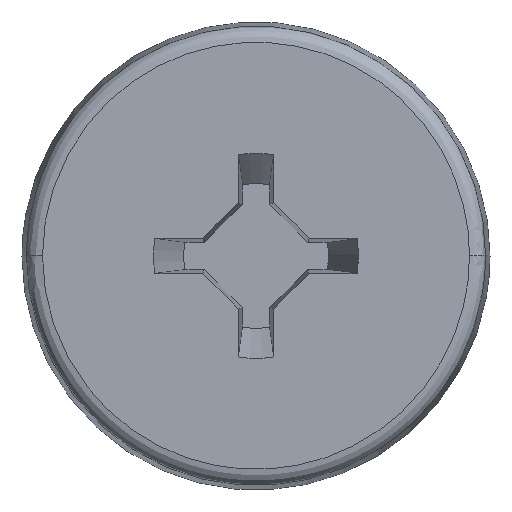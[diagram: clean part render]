
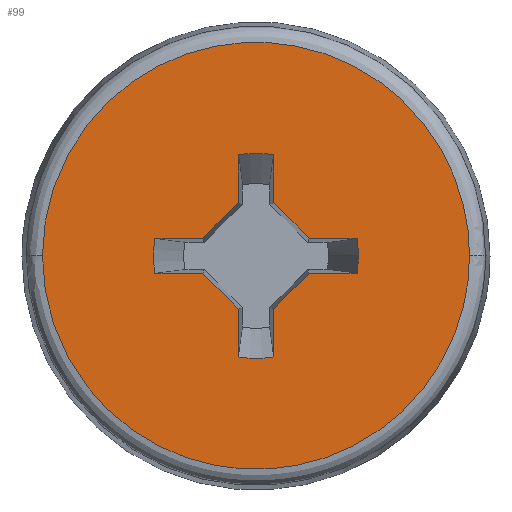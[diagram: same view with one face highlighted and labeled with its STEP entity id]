
A CAD part, top view. The second image highlights one B-rep face of the part: STEP entity #99.
In plain terms, the highlighted planar face has unit normal (0, 0, 1).
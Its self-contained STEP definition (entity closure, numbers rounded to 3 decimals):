
#25=FACE_BOUND('',#285,.T.);
#99=ADVANCED_FACE('',(#191,#25),#1523,.T.);
#191=FACE_OUTER_BOUND('',#284,.T.);
#284=EDGE_LOOP('',(#722,#723));
#285=EDGE_LOOP('',(#724,#725,#726,#727,#728,#729,#730,#731,#732,#733,#734,
#735,#736,#737,#738,#739,#740));
#722=ORIENTED_EDGE('',*,*,#1027,.F.);
#723=ORIENTED_EDGE('',*,*,#1086,.T.);
#724=ORIENTED_EDGE('',*,*,#1032,.T.);
#725=ORIENTED_EDGE('',*,*,#1058,.T.);
#726=ORIENTED_EDGE('',*,*,#1039,.T.);
#727=ORIENTED_EDGE('',*,*,#1067,.T.);
#728=ORIENTED_EDGE('',*,*,#1040,.T.);
#729=ORIENTED_EDGE('',*,*,#1071,.T.);
#730=ORIENTED_EDGE('',*,*,#1041,.T.);
#731=ORIENTED_EDGE('',*,*,#1075,.T.);
#732=ORIENTED_EDGE('',*,*,#1042,.T.);
#733=ORIENTED_EDGE('',*,*,#1079,.T.);
#734=ORIENTED_EDGE('',*,*,#1043,.T.);
#735=ORIENTED_EDGE('',*,*,#1083,.T.);
#736=ORIENTED_EDGE('',*,*,#1044,.T.);
#737=ORIENTED_EDGE('',*,*,#1047,.T.);
#738=ORIENTED_EDGE('',*,*,#1045,.T.);
#739=ORIENTED_EDGE('',*,*,#1053,.T.);
#740=ORIENTED_EDGE('',*,*,#1046,.T.);
#1027=EDGE_CURVE('',#1482,#1483,#1217,.T.);
#1032=EDGE_CURVE('',#1488,#1487,#1221,.T.);
#1039=EDGE_CURVE('',#1491,#1492,#1309,.T.);
#1040=EDGE_CURVE('',#1493,#1494,#1310,.T.);
#1041=EDGE_CURVE('',#1495,#1496,#1311,.T.);
#1042=EDGE_CURVE('',#1497,#1498,#1312,.T.);
#1043=EDGE_CURVE('',#1499,#1500,#1313,.T.);
#1044=EDGE_CURVE('',#1501,#1502,#1314,.T.);
#1045=EDGE_CURVE('',#1503,#1504,#1315,.T.);
#1046=EDGE_CURVE('',#1505,#1488,#1316,.T.);
#1047=EDGE_CURVE('',#1502,#1503,#1225,.T.);
#1053=EDGE_CURVE('',#1504,#1505,#1321,.T.);
#1058=EDGE_CURVE('',#1487,#1491,#1228,.T.);
#1067=EDGE_CURVE('',#1492,#1493,#1333,.T.);
#1071=EDGE_CURVE('',#1494,#1495,#1229,.T.);
#1075=EDGE_CURVE('',#1496,#1497,#1339,.T.);
#1079=EDGE_CURVE('',#1498,#1499,#1231,.T.);
#1083=EDGE_CURVE('',#1500,#1501,#1345,.T.);
#1086=EDGE_CURVE('',#1482,#1483,#1233,.T.);
#1217=(
BOUNDED_CURVE()
B_SPLINE_CURVE(2,(#5500,#5501,#5502,#5503,#5504),.UNSPECIFIED.,.F.,.F.)
B_SPLINE_CURVE_WITH_KNOTS((3,2,3),(0.,0.314,0.627),
 .UNSPECIFIED.)
CURVE()
GEOMETRIC_REPRESENTATION_ITEM()
RATIONAL_B_SPLINE_CURVE((1.,0.707,1.,0.707,1.))
REPRESENTATION_ITEM('')
);
#1221=(
BOUNDED_CURVE()
B_SPLINE_CURVE(2,(#5518,#5519,#5520),.UNSPECIFIED.,.F.,.F.)
B_SPLINE_CURVE_WITH_KNOTS((3,3),(-0.017,0.),.UNSPECIFIED.)
CURVE()
GEOMETRIC_REPRESENTATION_ITEM()
RATIONAL_B_SPLINE_CURVE((1.,0.996,1.))
REPRESENTATION_ITEM('')
);
#1225=(
BOUNDED_CURVE()
B_SPLINE_CURVE(2,(#5560,#5561,#5562),.UNSPECIFIED.,.F.,.F.)
B_SPLINE_CURVE_WITH_KNOTS((3,3),(-0.033,0.),.UNSPECIFIED.)
CURVE()
GEOMETRIC_REPRESENTATION_ITEM()
RATIONAL_B_SPLINE_CURVE((1.,0.985,1.))
REPRESENTATION_ITEM('')
);
#1228=(
BOUNDED_CURVE()
B_SPLINE_CURVE(2,(#5589,#5590,#5591),.UNSPECIFIED.,.F.,.F.)
B_SPLINE_CURVE_WITH_KNOTS((3,3),(-0.017,0.),.UNSPECIFIED.)
CURVE()
GEOMETRIC_REPRESENTATION_ITEM()
RATIONAL_B_SPLINE_CURVE((1.,0.996,1.))
REPRESENTATION_ITEM('')
);
#1229=(
BOUNDED_CURVE()
B_SPLINE_CURVE(2,(#5620,#5621,#5622),.UNSPECIFIED.,.F.,.F.)
B_SPLINE_CURVE_WITH_KNOTS((3,3),(-0.033,0.),.UNSPECIFIED.)
CURVE()
GEOMETRIC_REPRESENTATION_ITEM()
RATIONAL_B_SPLINE_CURVE((1.,0.985,1.))
REPRESENTATION_ITEM('')
);
#1231=(
BOUNDED_CURVE()
B_SPLINE_CURVE(2,(#5642,#5643,#5644),.UNSPECIFIED.,.F.,.F.)
B_SPLINE_CURVE_WITH_KNOTS((3,3),(-0.033,0.),.UNSPECIFIED.)
CURVE()
GEOMETRIC_REPRESENTATION_ITEM()
RATIONAL_B_SPLINE_CURVE((1.,0.985,1.))
REPRESENTATION_ITEM('')
);
#1233=(
BOUNDED_CURVE()
B_SPLINE_CURVE(2,(#5660,#5661,#5662,#5663,#5664),.UNSPECIFIED.,.F.,.F.)
B_SPLINE_CURVE_WITH_KNOTS((3,2,3),(0.,0.314,0.627),
 .UNSPECIFIED.)
CURVE()
GEOMETRIC_REPRESENTATION_ITEM()
RATIONAL_B_SPLINE_CURVE((1.,0.707,1.,0.707,1.))
REPRESENTATION_ITEM('')
);
#1309=B_SPLINE_CURVE_WITH_KNOTS('',1,(#5544,#5545),.UNSPECIFIED.,.F.,.F.,
(2,2),(0.,0.045),.UNSPECIFIED.);
#1310=B_SPLINE_CURVE_WITH_KNOTS('',1,(#5546,#5547),.UNSPECIFIED.,.F.,.F.,
(2,2),(0.,0.045),.UNSPECIFIED.);
#1311=B_SPLINE_CURVE_WITH_KNOTS('',1,(#5548,#5549),.UNSPECIFIED.,.F.,.F.,
(2,2),(0.,0.045),.UNSPECIFIED.);
#1312=B_SPLINE_CURVE_WITH_KNOTS('',1,(#5550,#5551),.UNSPECIFIED.,.F.,.F.,
(2,2),(0.,0.045),.UNSPECIFIED.);
#1313=B_SPLINE_CURVE_WITH_KNOTS('',1,(#5552,#5553),.UNSPECIFIED.,.F.,.F.,
(2,2),(0.,0.045),.UNSPECIFIED.);
#1314=B_SPLINE_CURVE_WITH_KNOTS('',1,(#5554,#5555),.UNSPECIFIED.,.F.,.F.,
(2,2),(0.,0.045),.UNSPECIFIED.);
#1315=B_SPLINE_CURVE_WITH_KNOTS('',1,(#5556,#5557),.UNSPECIFIED.,.F.,.F.,
(2,2),(0.,0.045),.UNSPECIFIED.);
#1316=B_SPLINE_CURVE_WITH_KNOTS('',1,(#5558,#5559),.UNSPECIFIED.,.F.,.F.,
(2,2),(0.,0.045),.UNSPECIFIED.);
#1321=B_SPLINE_CURVE_WITH_KNOTS('',1,(#5578,#5579),.UNSPECIFIED.,.F.,.F.,
(2,2),(-0.047,0.),.UNSPECIFIED.);
#1333=B_SPLINE_CURVE_WITH_KNOTS('',1,(#5610,#5611),.UNSPECIFIED.,.F.,.F.,
(2,2),(-0.047,0.),.UNSPECIFIED.);
#1339=B_SPLINE_CURVE_WITH_KNOTS('',1,(#5632,#5633),.UNSPECIFIED.,.F.,.F.,
(2,2),(-0.047,0.),.UNSPECIFIED.);
#1345=B_SPLINE_CURVE_WITH_KNOTS('',1,(#5654,#5655),.UNSPECIFIED.,.F.,.F.,
(2,2),(-0.047,0.),.UNSPECIFIED.);
#1482=VERTEX_POINT('',#4147);
#1483=VERTEX_POINT('',#4148);
#1487=VERTEX_POINT('',#4152);
#1488=VERTEX_POINT('',#4153);
#1491=VERTEX_POINT('',#4156);
#1492=VERTEX_POINT('',#4157);
#1493=VERTEX_POINT('',#4158);
#1494=VERTEX_POINT('',#4159);
#1495=VERTEX_POINT('',#4160);
#1496=VERTEX_POINT('',#4161);
#1497=VERTEX_POINT('',#4162);
#1498=VERTEX_POINT('',#4163);
#1499=VERTEX_POINT('',#4164);
#1500=VERTEX_POINT('',#4165);
#1501=VERTEX_POINT('',#4166);
#1502=VERTEX_POINT('',#4167);
#1503=VERTEX_POINT('',#4168);
#1504=VERTEX_POINT('',#4169);
#1505=VERTEX_POINT('',#4170);
#1523=PLANE('',#1635);
#1635=AXIS2_PLACEMENT_3D('',#3846,#1654,$);
#1654=DIRECTION('',(0.,0.,1.));
#3846=CARTESIAN_POINT('',(-5.062,-17.062,1.905));
#4147=CARTESIAN_POINT('',(7.944,0.,1.905));
#4148=CARTESIAN_POINT('',(16.056,0.,1.905));
#4152=CARTESIAN_POINT('',(13.95,0.,1.905));
#4153=CARTESIAN_POINT('',(13.921,0.335,1.905));
#4156=CARTESIAN_POINT('',(13.921,-0.335,1.905));
#4157=CARTESIAN_POINT('',(13.012,-0.335,1.905));
#4158=CARTESIAN_POINT('',(12.335,-1.012,1.905));
#4159=CARTESIAN_POINT('',(12.335,-1.921,1.905));
#4160=CARTESIAN_POINT('',(11.665,-1.921,1.905));
#4161=CARTESIAN_POINT('',(11.665,-1.012,1.905));
#4162=CARTESIAN_POINT('',(10.988,-0.335,1.905));
#4163=CARTESIAN_POINT('',(10.079,-0.335,1.905));
#4164=CARTESIAN_POINT('',(10.079,0.335,1.905));
#4165=CARTESIAN_POINT('',(10.988,0.335,1.905));
#4166=CARTESIAN_POINT('',(11.665,1.012,1.905));
#4167=CARTESIAN_POINT('',(11.665,1.921,1.905));
#4168=CARTESIAN_POINT('',(12.335,1.921,1.905));
#4169=CARTESIAN_POINT('',(12.335,1.012,1.905));
#4170=CARTESIAN_POINT('',(13.012,0.335,1.905));
#5500=CARTESIAN_POINT('',(7.944,0.,1.905));
#5501=CARTESIAN_POINT('',(7.944,4.056,1.905));
#5502=CARTESIAN_POINT('',(12.,4.056,1.905));
#5503=CARTESIAN_POINT('',(16.056,4.056,1.905));
#5504=CARTESIAN_POINT('',(16.056,0.,1.905));
#5518=CARTESIAN_POINT('',(13.921,0.335,1.905));
#5519=CARTESIAN_POINT('',(13.95,0.169,1.905));
#5520=CARTESIAN_POINT('',(13.95,0.,1.905));
#5544=CARTESIAN_POINT('',(13.921,-0.335,1.905));
#5545=CARTESIAN_POINT('',(13.012,-0.335,1.905));
#5546=CARTESIAN_POINT('',(12.335,-1.012,1.905));
#5547=CARTESIAN_POINT('',(12.335,-1.921,1.905));
#5548=CARTESIAN_POINT('',(11.665,-1.921,1.905));
#5549=CARTESIAN_POINT('',(11.665,-1.012,1.905));
#5550=CARTESIAN_POINT('',(10.988,-0.335,1.905));
#5551=CARTESIAN_POINT('',(10.079,-0.335,1.905));
#5552=CARTESIAN_POINT('',(10.079,0.335,1.905));
#5553=CARTESIAN_POINT('',(10.988,0.335,1.905));
#5554=CARTESIAN_POINT('',(11.665,1.012,1.905));
#5555=CARTESIAN_POINT('',(11.665,1.921,1.905));
#5556=CARTESIAN_POINT('',(12.335,1.921,1.905));
#5557=CARTESIAN_POINT('',(12.335,1.012,1.905));
#5558=CARTESIAN_POINT('',(13.012,0.335,1.905));
#5559=CARTESIAN_POINT('',(13.921,0.335,1.905));
#5560=CARTESIAN_POINT('',(11.665,1.921,1.905));
#5561=CARTESIAN_POINT('',(12.,1.979,1.905));
#5562=CARTESIAN_POINT('',(12.335,1.921,1.905));
#5578=CARTESIAN_POINT('',(12.335,1.012,1.905));
#5579=CARTESIAN_POINT('',(13.012,0.335,1.905));
#5589=CARTESIAN_POINT('',(13.95,0.,1.905));
#5590=CARTESIAN_POINT('',(13.95,-0.169,1.905));
#5591=CARTESIAN_POINT('',(13.921,-0.335,1.905));
#5610=CARTESIAN_POINT('',(13.012,-0.335,1.905));
#5611=CARTESIAN_POINT('',(12.335,-1.012,1.905));
#5620=CARTESIAN_POINT('',(12.335,-1.921,1.905));
#5621=CARTESIAN_POINT('',(12.,-1.979,1.905));
#5622=CARTESIAN_POINT('',(11.665,-1.921,1.905));
#5632=CARTESIAN_POINT('',(11.665,-1.012,1.905));
#5633=CARTESIAN_POINT('',(10.988,-0.335,1.905));
#5642=CARTESIAN_POINT('',(10.079,-0.335,1.905));
#5643=CARTESIAN_POINT('',(10.021,0.,1.905));
#5644=CARTESIAN_POINT('',(10.079,0.335,1.905));
#5654=CARTESIAN_POINT('',(10.988,0.335,1.905));
#5655=CARTESIAN_POINT('',(11.665,1.012,1.905));
#5660=CARTESIAN_POINT('',(7.944,0.,1.905));
#5661=CARTESIAN_POINT('',(7.944,-4.056,1.905));
#5662=CARTESIAN_POINT('',(12.,-4.056,1.905));
#5663=CARTESIAN_POINT('',(16.056,-4.056,1.905));
#5664=CARTESIAN_POINT('',(16.056,0.,1.905));
